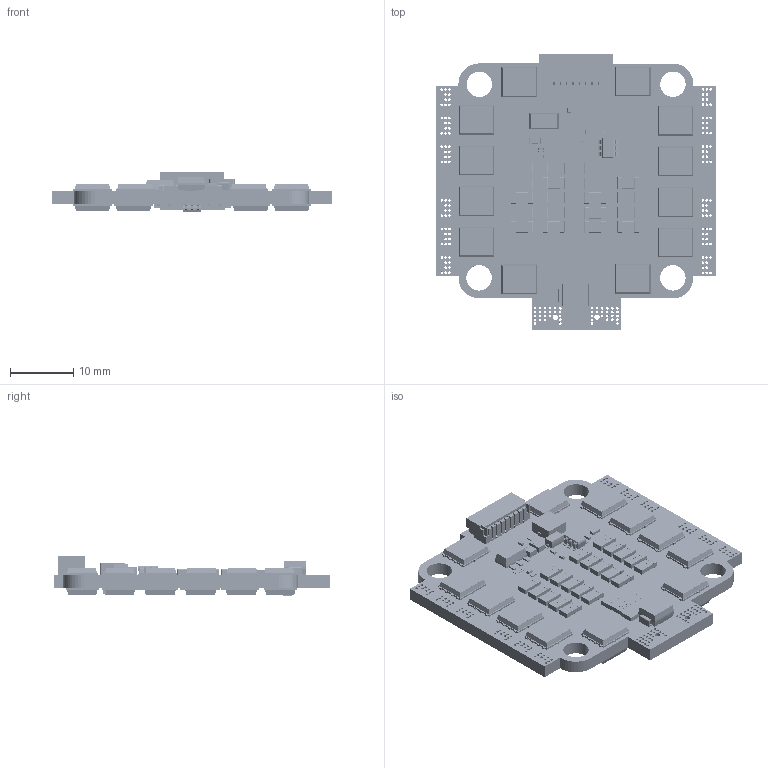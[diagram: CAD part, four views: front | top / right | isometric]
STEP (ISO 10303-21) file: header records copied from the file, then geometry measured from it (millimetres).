
FILE_DESCRIPTION(/* description */ ('PCB Design'),/* implementation_level */ '2;1');
FILE_NAME(/* name */ '4IN1-ESC-DA2',/* time_stamp */ '2024-11-21T12:07:45+08:00',/* author */ (''),/* organization */ (''),/* preprocessor_version */ 'ST-DEVELOPER v16',/* originating_system */ 'allegro_17.4S037',/* authorisation */ '');
FILE_SCHEMA (('AUTOMOTIVE_DESIGN { 1 0 10303 214 3 1 1 }'));
Products named in the file (90): 4IN1-ESC-DA2; BOARD_OUTLINE; COMPONENTS; SOD_123; R0603; SOT_89_ST; L4_0X4_6; SMB1; 2725R; 0805C; R0402; SOT26-6-0R95; QFN20-0R50-3X3; 8P_1_0_SMD; DFN_005P_5D00X6D00; SOT_23_5; QFN_024P_4D00X4D00_EP; 0402R; SOD_523; 0402C; 0603C; 1206C; CircuitWorks-SOD123; product; 58FCA79A-D6C1-4056-9588-D05A8E6FC2FA; User Library-DO-214AA SMB; User Library-CSS2725; CSS2725_BODY; CSS2725_SIZE; User Library-SOT-23-6-4_SOT-23-6 Foot; User Library-SOT-23-6-4_SOT-23-6 Body; User Library-SOT-23-6-4; 479710801; Extruded25; Free-Models1; Cylinder1; Extruded23; Extruded16; Board1; Extruded20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
Assembly tree (278 placements, depth 9):
  4IN1-ESC-DA2
    BOARD_OUTLINE
    COMPONENTS
      SOD_123
        CircuitWorks-SOD123
      R0603
        R0603
      SOT_89_ST
        product
      L4_0X4_6
        58FCA79A-D6C1-4056-9588-D05A8E6FC2FA
      SMB1
        User Library-DO-214AA SMB
      2725R
        User Library-CSS2725
          CSS2725_BODY
          CSS2725_SIZE
      0805C  x2
        product
      R0402  x3
        R0402
      SOT26-6-0R95
        User Library-SOT-23-6-4
          User Library-SOT-23-6-4_SOT-23-6 Body
          User Library-SOT-23-6-4_SOT-23-6 Foot  x6
      QFN20-0R50-3X3  x4
        User Library-QFN-20
          Free-Models1
            479712337  x4
              Extruded16
            479711313
              Extruded23
            479711441  x4
              Extruded21
            479712209  x4
              Extruded20
            479706833  x4
              Extruded19
            479706577  x4
              Extruded22
            479707217
              Extruded14
            479706449
              Extruded15
            479710545
              Extruded25
            479480465
              Cylinder1
            479711953
              Extruded13
            479709777
              Extruded18
            479710033
              Extruded24
            479710801
              Extruded17
          Board1
      8P_1_0_SMD
        A3627FA3-BE86-4AB5-8278-8ADB4082175D
      DFN_005P_5D00X6D00  x24
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Bounding box: 43.96 x 43.51 x 6.17 mm (x, y, z)
Volume: 764.2 mm3; surface area: 10460.2 mm2
Topology: 820 solids, 967 shells, 18968 faces, 48056 edges, 30483 vertices
Faces by surface type: plane 13334, bspline 2484, cylinder 2364, sphere 784, cone 2
Full cylindrical faces by diameter (mm): 0.173 x1
Entity records: 99506 total; most frequent: CARTESIAN_POINT 31542, ORIENTED_EDGE 11638, DIRECTION 9076, EDGE_CURVE 6206, VERTEX_POINT 4809, VECTOR 4670, LINE 4670, AXIS2_PLACEMENT_3D 3522
